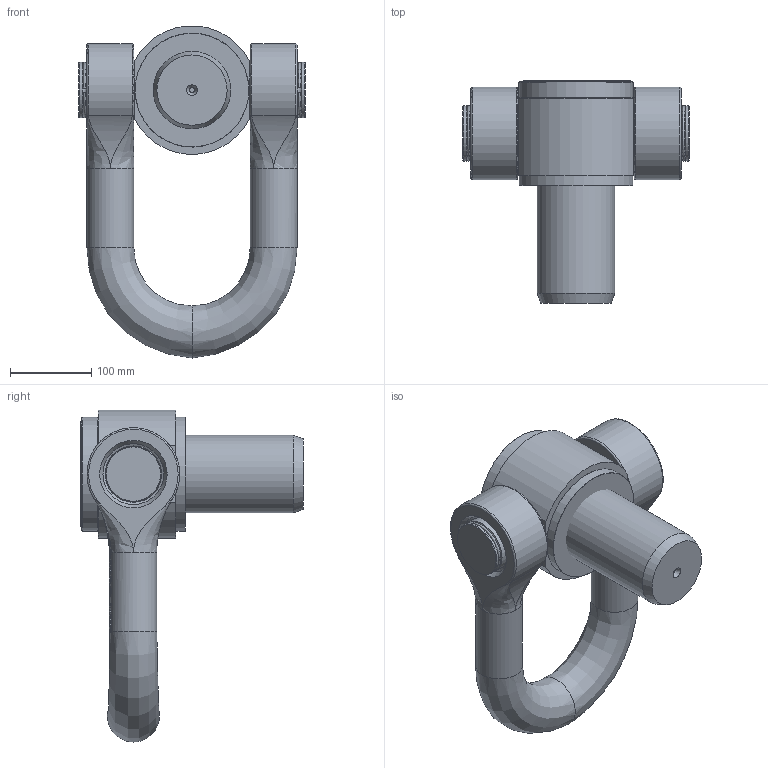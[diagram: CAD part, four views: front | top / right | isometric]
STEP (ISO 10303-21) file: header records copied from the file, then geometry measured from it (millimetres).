
FILE_DESCRIPTION(/* description */ (''),/* implementation_level */ '2;1');
FILE_NAME(/* name */ 'W:\CODIPRO\DOCUMENTS\Plans A NE PAS DIFFUSER !!!\Fichiers STEP (3D)\Gamme 2018\Produits GRADUP\MEGA DSS + UP\MEGA DSS + U375 UP.stp',/* time_stamp */ '2023-05-30T13:51:45+02:00',/* author */ ('mmagerotte'),/* organization */ (''),/* preprocessor_version */ 'ST-DEVELOPER v17',/* originating_system */ 'Autodesk Inventor 2019',/* authorisation */ '');
FILE_SCHEMA (('AUTOMOTIVE_DESIGN { 1 0 10303 214 3 1 1 }'));
Length unit declared in the file: millimetre
Products named in the file (7): MEGA DSS + U375 UP; DSS_N5X110; DSM_N5X110; DSM_N5; DIN 7993 - A 65; DSE_U33-4A; DSA_U33-4X252_UP+
Assembly tree (7 placements, depth 3):
  MEGA DSS + U375 UP
    DSS_N5X110
      DSM_N5X110
      DSM_N5
      DIN 7993 - A 65  x2
    DSE_U33-4A
    DSA_U33-4X252_UP+
Bounding box: 278 x 273 x 407.71 mm (x, y, z)
Volume: 6232787.9 mm3; surface area: 504852.6 mm2
Topology: 6 solids, 6 shells, 1101 faces, 3029 edges, 2016 vertices
Faces by surface type: plane 542, bspline 439, cylinder 79, cone 27, torus 14
Full cylindrical faces by diameter (mm): 6.3 x1, 57.5 x2, 68 x4, 69.2 x2, 87 x1, 88.367 x1, 95.25 x1, 96 x1, 110 x4, 140 x2
Entity records: 42373 total; most frequent: CARTESIAN_POINT 17141, ORIENTED_EDGE 6046, DIRECTION 3593, EDGE_CURVE 3023, VERTEX_POINT 2012, LINE 1669, VECTOR 1669, EDGE_LOOP 1183
